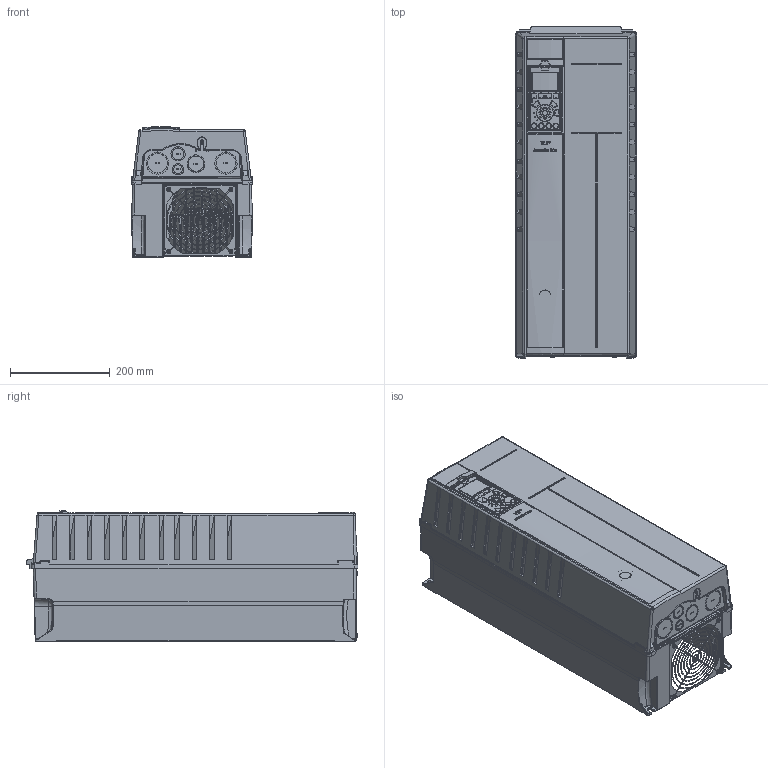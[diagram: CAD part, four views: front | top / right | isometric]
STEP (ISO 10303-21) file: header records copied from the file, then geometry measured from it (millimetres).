
FILE_DESCRIPTION((''),'2;1');
FILE_NAME('DANFOSS-FC300-B2-IP21','2011-11-09T',('cstephenkumar'),('Be-Atch INC. 1993'),'PRO/ENGINEER BY PARAMETRIC TECHNOLOGY CORPORATION, 2009360','PRO/ENGINEER BY PARAMETRIC TECHNOLOGY CORPORATION, 2009360','');
FILE_SCHEMA(('AUTOMOTIVE_DESIGN { 1 0 10303 214 1 1 1 1 }'));
Products named in the file (1): DANFOSS-FC300-B2-IP21
Bounding box: 242.5 x 664.32 x 261.6 mm (x, y, z)
Volume: 26216431.6 mm3; surface area: 2551705.7 mm2
Topology: 1 solids, 16 shells, 5564 faces, 14230 edges, 8720 vertices
Faces by surface type: cylinder 1920, plane 1743, bspline 1384, torus 197, cone 141, extrusion 115, sphere 64
Entity records: 231662 total; most frequent: CARTESIAN_POINT 103987, ORIENTED_EDGE 28418, DIRECTION 21581, EDGE_CURVE 14209, VERTEX_POINT 8720, AXIS2_PLACEMENT_3D 7327, VECTOR 6927, LINE 6812
